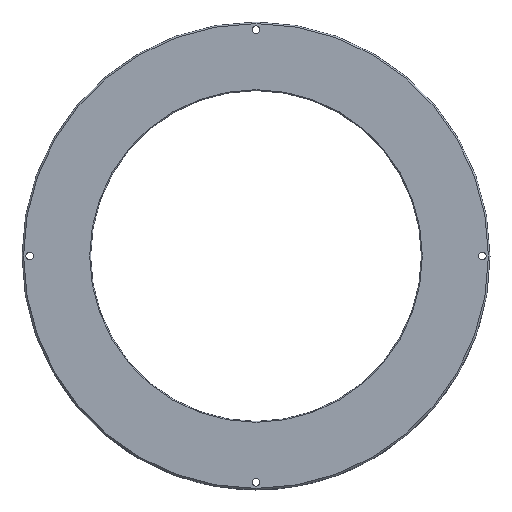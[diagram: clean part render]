
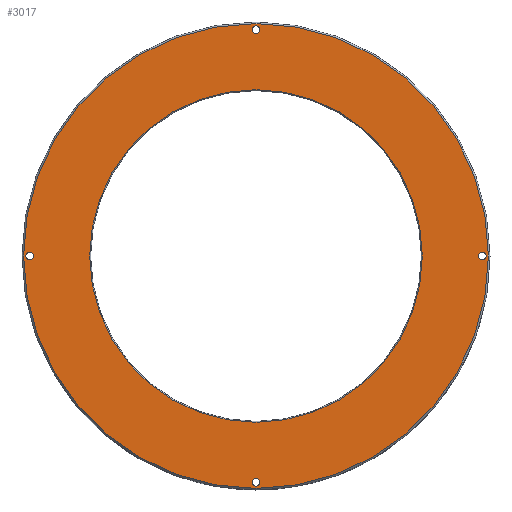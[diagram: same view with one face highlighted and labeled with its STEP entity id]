
A CAD part, front view. The second image highlights one B-rep face of the part: STEP entity #3017.
In plain terms, the highlighted planar face has unit normal (0, -1, 0).
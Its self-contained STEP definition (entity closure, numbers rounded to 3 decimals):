
#29 = CIRCLE ( 'NONE', #3453, 1.25 ) ;
#50 = CARTESIAN_POINT ( 'NONE',  ( 72.547, -4.075, 150. ) ) ;
#59 = ORIENTED_EDGE ( 'NONE', *, *, #2622, .F. ) ;
#60 = VERTEX_POINT ( 'NONE', #2762 ) ;
#76 = CIRCLE ( 'NONE', #1995, 53.3 ) ;
#127 = EDGE_LOOP ( 'NONE', ( #413, #387 ) ) ;
#148 = DIRECTION ( 'NONE',  ( 0., -1., 0. ) ) ;
#187 = FACE_BOUND ( 'NONE', #2702, .T. ) ;
#198 = AXIS2_PLACEMENT_3D ( 'NONE', #3093, #334, #2247 ) ;
#224 = DIRECTION ( 'NONE',  ( 0., -1., 0. ) ) ;
#289 = CIRCLE ( 'NONE', #586, 74.5 ) ;
#334 = DIRECTION ( 'NONE',  ( 0., -1., 0. ) ) ;
#347 = DIRECTION ( 'NONE',  ( 1., 0., 0. ) ) ;
#387 = ORIENTED_EDGE ( 'NONE', *, *, #1041, .T. ) ;
#408 = EDGE_LOOP ( 'NONE', ( #1403, #675 ) ) ;
#413 = ORIENTED_EDGE ( 'NONE', *, *, #756, .T. ) ;
#427 = AXIS2_PLACEMENT_3D ( 'NONE', #2095, #148, #3150 ) ;
#434 = AXIS2_PLACEMENT_3D ( 'NONE', #2199, #3340, #1365 ) ;
#510 = EDGE_LOOP ( 'NONE', ( #59, #1725 ) ) ;
#586 = AXIS2_PLACEMENT_3D ( 'NONE', #2776, #2768, #2737 ) ;
#594 = FACE_BOUND ( 'NONE', #510, .T. ) ;
#636 = VERTEX_POINT ( 'NONE', #1109 ) ;
#642 = EDGE_CURVE ( 'NONE', #3432, #824, #2451, .T. ) ;
#657 = CARTESIAN_POINT ( 'NONE',  ( 70.547, -4.075, 148.75 ) ) ;
#675 = ORIENTED_EDGE ( 'NONE', *, *, #642, .F. ) ;
#676 = DIRECTION ( 'NONE',  ( 0., 0., -1. ) ) ;
#680 = ORIENTED_EDGE ( 'NONE', *, *, #1594, .F. ) ;
#723 = FACE_BOUND ( 'NONE', #3324, .T. ) ;
#739 = CARTESIAN_POINT ( 'NONE',  ( -1.953, -4.075, 150. ) ) ;
#756 = EDGE_CURVE ( 'NONE', #2673, #2603, #289, .T. ) ;
#789 = AXIS2_PLACEMENT_3D ( 'NONE', #1957, #2234, #883 ) ;
#806 = DIRECTION ( 'NONE',  ( 0., -1., 0. ) ) ;
#824 = VERTEX_POINT ( 'NONE', #2794 ) ;
#883 = DIRECTION ( 'NONE',  ( 0., 0., -1. ) ) ;
#989 = EDGE_CURVE ( 'NONE', #3288, #60, #76, .T. ) ;
#992 = DIRECTION ( 'NONE',  ( 1., 0., 0. ) ) ;
#1041 = EDGE_CURVE ( 'NONE', #2603, #2673, #2281, .T. ) ;
#1047 = VERTEX_POINT ( 'NONE', #3533 ) ;
#1071 = CARTESIAN_POINT ( 'NONE',  ( 70.547, -4.075, 150. ) ) ;
#1080 = VERTEX_POINT ( 'NONE', #3507 ) ;
#1097 = CIRCLE ( 'NONE', #1582, 1.25 ) ;
#1109 = CARTESIAN_POINT ( 'NONE',  ( -74.453, -4.075, 148.75 ) ) ;
#1128 = CARTESIAN_POINT ( 'NONE',  ( -1.953, -4.075, 223.75 ) ) ;
#1194 = CARTESIAN_POINT ( 'NONE',  ( -1.953, -4.075, 150. ) ) ;
#1273 = ORIENTED_EDGE ( 'NONE', *, *, #989, .F. ) ;
#1365 = DIRECTION ( 'NONE',  ( 0., 0., -1. ) ) ;
#1403 = ORIENTED_EDGE ( 'NONE', *, *, #2973, .F. ) ;
#1450 = DIRECTION ( 'NONE',  ( 0., 0., -1. ) ) ;
#1467 = DIRECTION ( 'NONE',  ( 0., -1., 0. ) ) ;
#1498 = CARTESIAN_POINT ( 'NONE',  ( -1.953, -4.075, 77.5 ) ) ;
#1569 = CIRCLE ( 'NONE', #427, 1.25 ) ;
#1582 = AXIS2_PLACEMENT_3D ( 'NONE', #3341, #1696, #1450 ) ;
#1594 = EDGE_CURVE ( 'NONE', #60, #3288, #2367, .T. ) ;
#1599 = CARTESIAN_POINT ( 'NONE',  ( -1.953, -4.075, 78.75 ) ) ;
#1666 = EDGE_CURVE ( 'NONE', #1712, #2583, #2049, .T. ) ;
#1689 = EDGE_CURVE ( 'NONE', #1080, #636, #1097, .T. ) ;
#1696 = DIRECTION ( 'NONE',  ( 0., -1., 0. ) ) ;
#1699 = CARTESIAN_POINT ( 'NONE',  ( -1.953, -4.075, 222.5 ) ) ;
#1708 = CARTESIAN_POINT ( 'NONE',  ( -76.453, -4.075, 150. ) ) ;
#1712 = VERTEX_POINT ( 'NONE', #1128 ) ;
#1725 = ORIENTED_EDGE ( 'NONE', *, *, #1666, .F. ) ;
#1758 = DIRECTION ( 'NONE',  ( 0., 0., -1. ) ) ;
#1825 = DIRECTION ( 'NONE',  ( 0., -1., 0. ) ) ;
#1854 = VERTEX_POINT ( 'NONE', #657 ) ;
#1915 = DIRECTION ( 'NONE',  ( 0., 0., -1. ) ) ;
#1957 = CARTESIAN_POINT ( 'NONE',  ( -1.953, -4.075, 222.5 ) ) ;
#1971 = EDGE_CURVE ( 'NONE', #1047, #1854, #2098, .T. ) ;
#1995 = AXIS2_PLACEMENT_3D ( 'NONE', #739, #1825, #992 ) ;
#2049 = CIRCLE ( 'NONE', #789, 1.25 ) ;
#2095 = CARTESIAN_POINT ( 'NONE',  ( 70.547, -4.075, 150. ) ) ;
#2098 = CIRCLE ( 'NONE', #2809, 1.25 ) ;
#2199 = CARTESIAN_POINT ( 'NONE',  ( -74.453, -4.075, 150. ) ) ;
#2209 = DIRECTION ( 'NONE',  ( 1., 0., 0. ) ) ;
#2234 = DIRECTION ( 'NONE',  ( 0., -1., 0. ) ) ;
#2238 = AXIS2_PLACEMENT_3D ( 'NONE', #1699, #2590, #676 ) ;
#2247 = DIRECTION ( 'NONE',  ( 0., 0., -1. ) ) ;
#2281 = CIRCLE ( 'NONE', #2758, 74.5 ) ;
#2320 = DIRECTION ( 'NONE',  ( 0., -1., 0. ) ) ;
#2367 = CIRCLE ( 'NONE', #3322, 53.3 ) ;
#2387 = ORIENTED_EDGE ( 'NONE', *, *, #3159, .F. ) ;
#2401 = FACE_OUTER_BOUND ( 'NONE', #127, .T. ) ;
#2440 = DIRECTION ( 'NONE',  ( 1., 0., 0. ) ) ;
#2448 = CARTESIAN_POINT ( 'NONE',  ( -1.953, -4.075, 150. ) ) ;
#2451 = CIRCLE ( 'NONE', #198, 1.25 ) ;
#2452 = CARTESIAN_POINT ( 'NONE',  ( -1.953, -4.075, 150. ) ) ;
#2541 = CARTESIAN_POINT ( 'NONE',  ( 51.347, -4.075, 150. ) ) ;
#2583 = VERTEX_POINT ( 'NONE', #3347 ) ;
#2590 = DIRECTION ( 'NONE',  ( 0., -1., 0. ) ) ;
#2603 = VERTEX_POINT ( 'NONE', #50 ) ;
#2622 = EDGE_CURVE ( 'NONE', #2583, #1712, #3342, .T. ) ;
#2673 = VERTEX_POINT ( 'NONE', #1708 ) ;
#2702 = EDGE_LOOP ( 'NONE', ( #1273, #680 ) ) ;
#2737 = DIRECTION ( 'NONE',  ( 1., 0., 0. ) ) ;
#2744 = ORIENTED_EDGE ( 'NONE', *, *, #3354, .F. ) ;
#2758 = AXIS2_PLACEMENT_3D ( 'NONE', #2448, #806, #2440 ) ;
#2762 = CARTESIAN_POINT ( 'NONE',  ( -55.253, -4.075, 150. ) ) ;
#2768 = DIRECTION ( 'NONE',  ( 0., -1., 0. ) ) ;
#2776 = CARTESIAN_POINT ( 'NONE',  ( -1.953, -4.075, 150. ) ) ;
#2794 = CARTESIAN_POINT ( 'NONE',  ( -1.953, -4.075, 76.25 ) ) ;
#2809 = AXIS2_PLACEMENT_3D ( 'NONE', #1071, #3289, #1915 ) ;
#2867 = ORIENTED_EDGE ( 'NONE', *, *, #1689, .F. ) ;
#2973 = EDGE_CURVE ( 'NONE', #824, #3432, #29, .T. ) ;
#3017 = ADVANCED_FACE ( 'NONE', ( #3220, #3256, #723, #594, #2401, #187 ), #3105, .T. ) ;
#3093 = CARTESIAN_POINT ( 'NONE',  ( -1.953, -4.075, 77.5 ) ) ;
#3105 = PLANE ( 'NONE',  #3249 ) ;
#3150 = DIRECTION ( 'NONE',  ( 0., 0., -1. ) ) ;
#3159 = EDGE_CURVE ( 'NONE', #1854, #1047, #1569, .T. ) ;
#3220 = FACE_BOUND ( 'NONE', #3229, .T. ) ;
#3229 = EDGE_LOOP ( 'NONE', ( #2387, #3514 ) ) ;
#3249 = AXIS2_PLACEMENT_3D ( 'NONE', #1194, #1467, #347 ) ;
#3256 = FACE_BOUND ( 'NONE', #408, .T. ) ;
#3288 = VERTEX_POINT ( 'NONE', #2541 ) ;
#3289 = DIRECTION ( 'NONE',  ( 0., -1., 0. ) ) ;
#3322 = AXIS2_PLACEMENT_3D ( 'NONE', #2452, #224, #2209 ) ;
#3324 = EDGE_LOOP ( 'NONE', ( #2744, #2867 ) ) ;
#3340 = DIRECTION ( 'NONE',  ( 0., -1., 0. ) ) ;
#3341 = CARTESIAN_POINT ( 'NONE',  ( -74.453, -4.075, 150. ) ) ;
#3342 = CIRCLE ( 'NONE', #2238, 1.25 ) ;
#3347 = CARTESIAN_POINT ( 'NONE',  ( -1.953, -4.075, 221.25 ) ) ;
#3354 = EDGE_CURVE ( 'NONE', #636, #1080, #3513, .T. ) ;
#3432 = VERTEX_POINT ( 'NONE', #1599 ) ;
#3453 = AXIS2_PLACEMENT_3D ( 'NONE', #1498, #2320, #1758 ) ;
#3507 = CARTESIAN_POINT ( 'NONE',  ( -74.453, -4.075, 151.25 ) ) ;
#3513 = CIRCLE ( 'NONE', #434, 1.25 ) ;
#3514 = ORIENTED_EDGE ( 'NONE', *, *, #1971, .F. ) ;
#3533 = CARTESIAN_POINT ( 'NONE',  ( 70.547, -4.075, 151.25 ) ) ;
